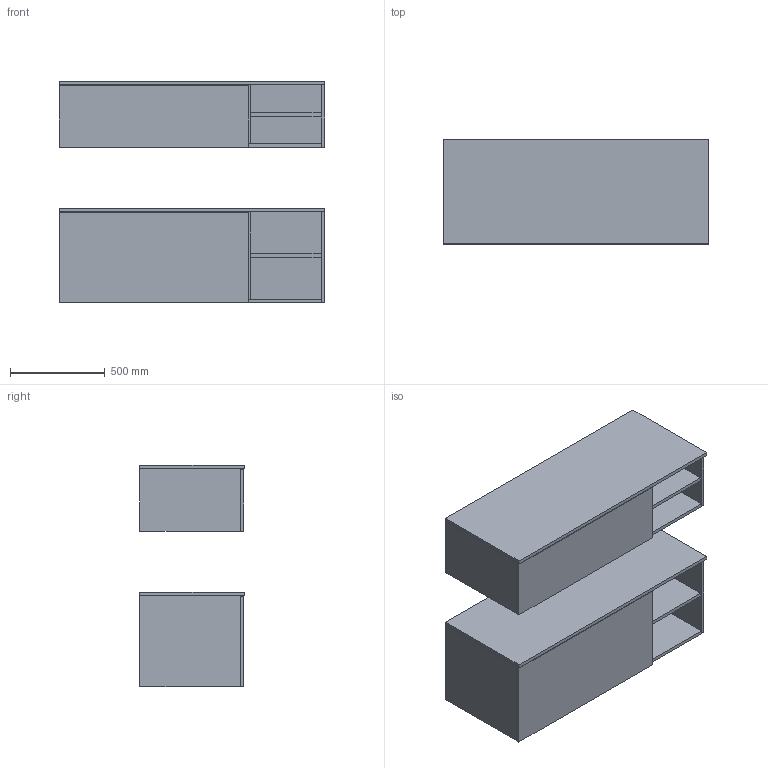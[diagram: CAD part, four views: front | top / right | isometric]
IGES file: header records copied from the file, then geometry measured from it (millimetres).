
Global section: file name: \\Archi-NAS\Comune\X GIOVANNI\MOBILI\BOXLINE\BOXLINE_11.igs; native system: Rhinoceros ( Feb 23 2021 ); preprocessor: Trout Lake IGES 012 Feb 23 2021; date: 230607.153320; units: millimetre
Bounding box: 1400 x 550 x 1171.3 mm (x, y, z)
Surface area: 16969500 mm2 (no closed solid volume)
Topology: 0 solids, 0 shells, 156 faces, 624 edges, 624 vertices
Faces by surface type: bspline 156
